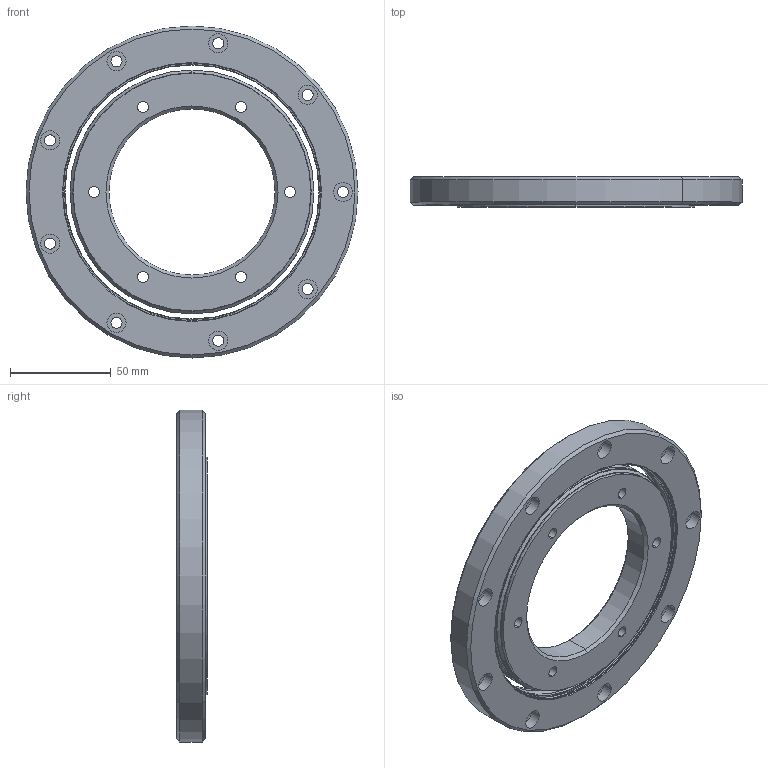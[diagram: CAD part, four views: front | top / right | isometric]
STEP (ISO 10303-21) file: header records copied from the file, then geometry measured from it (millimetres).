
FILE_DESCRIPTION (( 'STEP AP214' ), '1' );
FILE_NAME ('TTS2-083-167-15 Bearing Assembly.STEP', '2018-03-14T15:10:57', ( 'Admin' ), ( '' ), 'SwSTEP 2.0', 'SolidWorks 2018', '' );
FILE_SCHEMA (( 'AUTOMOTIVE_DESIGN' ));
Length unit declared in the file: inch
Products named in the file (3): TTS2 Outer Ring_TTS2-083-167-15; TTS2 Inner Ring_TTS2-083-167-15; TTS2-083-167-15 Bearing Assembly
Assembly tree (2 placements, depth 2):
  TTS2-083-167-15 Bearing Assembly
    TTS2 Inner Ring_TTS2-083-167-15
    TTS2 Outer Ring_TTS2-083-167-15
Bounding box: 165.1 x 15 x 165.1 mm (x, y, z)
Volume: 193442.7 mm3; surface area: 54555.1 mm2
Topology: 2 solids, 2 shells, 155 faces, 340 edges, 206 vertices
Faces by surface type: cylinder 84, cone 28, torus 22, plane 21
Entity records: 4498 total; most frequent: DIRECTION 888, CARTESIAN_POINT 706, ORIENTED_EDGE 680, AXIS2_PLACEMENT_3D 388, EDGE_CURVE 340, CIRCLE 228, EDGE_LOOP 206, VERTEX_POINT 206
